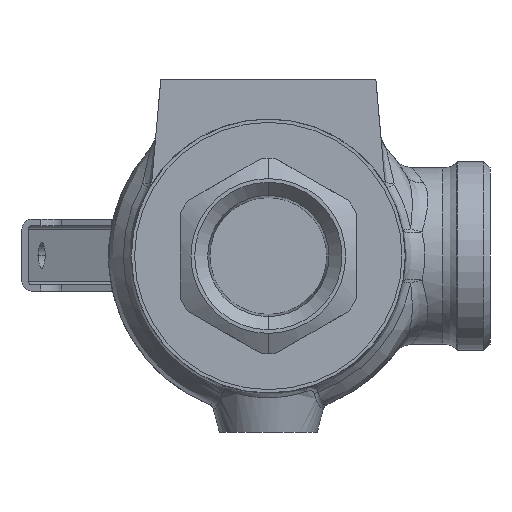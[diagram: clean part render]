
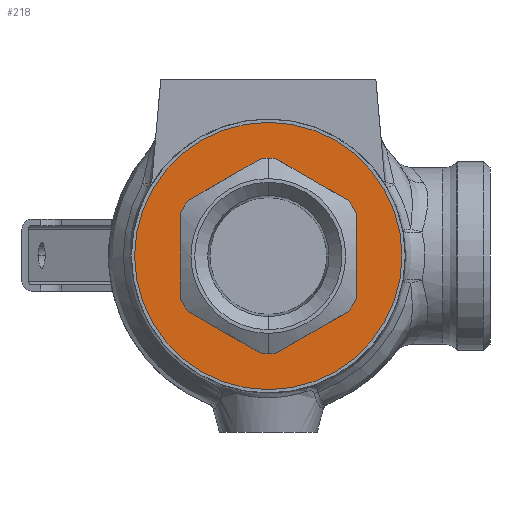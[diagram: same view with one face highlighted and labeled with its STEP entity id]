
A CAD part, front view. The second image highlights one B-rep face of the part: STEP entity #218.
In plain terms, the highlighted planar face has unit normal (0, -1, 0).
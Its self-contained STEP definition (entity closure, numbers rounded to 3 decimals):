
#218=ADVANCED_FACE('',(#1353,#1354),#1352,.T.);
#1352=PLANE('',#3597);
#1353=FACE_OUTER_BOUND('',#3598,.T.);
#1354=FACE_BOUND('',#3599,.T.);
#3594=CARTESIAN_POINT('',(-42.608,-25.,26.65));
#3595=DIRECTION('',(0.,-1.,0.));
#3596=DIRECTION('',(0.,0.,-1.));
#3597=AXIS2_PLACEMENT_3D('',#3594,#3595,#3596);
#3598=EDGE_LOOP('',(#4656,#4657));
#3599=EDGE_LOOP('',(#4658,#4659,#4660,#4661,#4662,#4663,#4664,#4665,#4666,#4667,#4668,#4669));
#4656=ORIENTED_EDGE('',*,*,#5303,.F.);
#4657=ORIENTED_EDGE('',*,*,#5304,.F.);
#4658=ORIENTED_EDGE('',*,*,#5301,.F.);
#4659=ORIENTED_EDGE('',*,*,#5297,.F.);
#4660=ORIENTED_EDGE('',*,*,#5294,.F.);
#4661=ORIENTED_EDGE('',*,*,#5108,.F.);
#4662=ORIENTED_EDGE('',*,*,#5292,.F.);
#4663=ORIENTED_EDGE('',*,*,#5112,.F.);
#4664=ORIENTED_EDGE('',*,*,#5290,.F.);
#4665=ORIENTED_EDGE('',*,*,#5116,.F.);
#4666=ORIENTED_EDGE('',*,*,#5126,.F.);
#4667=ORIENTED_EDGE('',*,*,#5120,.F.);
#4668=ORIENTED_EDGE('',*,*,#5124,.F.);
#4669=ORIENTED_EDGE('',*,*,#5305,.F.);
#5108=EDGE_CURVE('',#6164,#6171,#6172,.T.);
#5112=EDGE_CURVE('',#6192,#6199,#6200,.T.);
#5116=EDGE_CURVE('',#6220,#6227,#6228,.T.);
#5120=EDGE_CURVE('',#6248,#6255,#6256,.T.);
#5124=EDGE_CURVE('',#6275,#6248,#6282,.T.);
#5126=EDGE_CURVE('',#6255,#6220,#6294,.T.);
#5290=EDGE_CURVE('',#6227,#6192,#7393,.T.);
#5292=EDGE_CURVE('',#6199,#6164,#7405,.T.);
#5294=EDGE_CURVE('',#6171,#7418,#7419,.T.);
#5297=EDGE_CURVE('',#7418,#7438,#7439,.T.);
#5301=EDGE_CURVE('',#7438,#7465,#7466,.T.);
#5303=EDGE_CURVE('',#7478,#7479,#7480,.T.);
#5304=EDGE_CURVE('',#7479,#7478,#7486,.T.);
#5305=EDGE_CURVE('',#7465,#6275,#7492,.T.);
#6164=VERTEX_POINT('',#8664);
#6171=VERTEX_POINT('',#8668);
#6172=LINE('',#8669,#8670);
#6192=VERTEX_POINT('',#8687);
#6199=VERTEX_POINT('',#8691);
#6200=LINE('',#8692,#8693);
#6220=VERTEX_POINT('',#8710);
#6227=VERTEX_POINT('',#8714);
#6228=LINE('',#8715,#8716);
#6248=VERTEX_POINT('',#8735);
#6255=VERTEX_POINT('',#8739);
#6256=LINE('',#8740,#8741);
#6275=VERTEX_POINT('',#8751);
#6282=CIRCLE('',#8758,15.);
#6294=CIRCLE('',#8766,15.);
#7393=CIRCLE('',#10024,15.);
#7405=CIRCLE('',#10032,15.);
#7418=VERTEX_POINT('',#10038);
#7419=CIRCLE('',#10042,15.);
#7438=VERTEX_POINT('',#10057);
#7439=LINE('',#10058,#10059);
#7465=VERTEX_POINT('',#10074);
#7466=CIRCLE('',#10078,15.);
#7478=VERTEX_POINT('',#10082);
#7479=VERTEX_POINT('',#10083);
#7480=CIRCLE('',#10087,20.5);
#7486=CIRCLE('',#10091,20.5);
#7492=LINE('',#10092,#10093);
#8664=CARTESIAN_POINT('',(13.5,-25.,-6.538));
#8668=CARTESIAN_POINT('',(13.5,-25.,6.538));
#8669=CARTESIAN_POINT('',(13.5,-25.,-6.538));
#8670=VECTOR('',#8671,13.077);
#8671=DIRECTION('',(0.,0.,1.));
#8687=CARTESIAN_POINT('',(1.088,-25.,-14.961));
#8691=CARTESIAN_POINT('',(12.412,-25.,-8.422));
#8692=CARTESIAN_POINT('',(1.088,-25.,-14.961));
#8693=VECTOR('',#8694,13.077);
#8694=DIRECTION('',(0.866,0.,0.5));
#8710=CARTESIAN_POINT('',(-12.412,-25.,-8.422));
#8714=CARTESIAN_POINT('',(-1.088,-25.,-14.961));
#8715=CARTESIAN_POINT('',(-12.412,-25.,-8.422));
#8716=VECTOR('',#8717,13.077);
#8717=DIRECTION('',(0.866,0.,-0.5));
#8735=CARTESIAN_POINT('',(-13.5,-25.,6.538));
#8739=CARTESIAN_POINT('',(-13.5,-25.,-6.538));
#8740=CARTESIAN_POINT('',(-13.5,-25.,6.538));
#8741=VECTOR('',#8742,13.077);
#8742=DIRECTION('',(0.,0.,-1.));
#8751=CARTESIAN_POINT('',(-12.412,-25.,8.422));
#8755=CARTESIAN_POINT('',(0.,-25.,0.));
#8756=DIRECTION('',(0.,-1.,0.));
#8757=DIRECTION('',(0.,0.,1.));
#8758=AXIS2_PLACEMENT_3D('',#8755,#8756,#8757);
#8763=CARTESIAN_POINT('',(0.,-25.,0.));
#8764=DIRECTION('',(0.,-1.,0.));
#8765=DIRECTION('',(0.,0.,1.));
#8766=AXIS2_PLACEMENT_3D('',#8763,#8764,#8765);
#10021=CARTESIAN_POINT('',(0.,-25.,0.));
#10022=DIRECTION('',(0.,-1.,0.));
#10023=DIRECTION('',(0.,0.,1.));
#10024=AXIS2_PLACEMENT_3D('',#10021,#10022,#10023);
#10029=CARTESIAN_POINT('',(0.,-25.,0.));
#10030=DIRECTION('',(0.,-1.,0.));
#10031=DIRECTION('',(0.,0.,1.));
#10032=AXIS2_PLACEMENT_3D('',#10029,#10030,#10031);
#10038=CARTESIAN_POINT('',(12.412,-25.,8.422));
#10039=CARTESIAN_POINT('',(0.,-25.,0.));
#10040=DIRECTION('',(0.,-1.,0.));
#10041=DIRECTION('',(0.,0.,1.));
#10042=AXIS2_PLACEMENT_3D('',#10039,#10040,#10041);
#10057=CARTESIAN_POINT('',(1.088,-25.,14.961));
#10058=CARTESIAN_POINT('',(12.412,-25.,8.422));
#10059=VECTOR('',#10060,13.077);
#10060=DIRECTION('',(-0.866,0.,0.5));
#10074=CARTESIAN_POINT('',(-1.088,-25.,14.961));
#10075=CARTESIAN_POINT('',(0.,-25.,0.));
#10076=DIRECTION('',(0.,-1.,0.));
#10077=DIRECTION('',(0.073,0.,0.997));
#10078=AXIS2_PLACEMENT_3D('',#10075,#10076,#10077);
#10082=CARTESIAN_POINT('',(0.,-25.,-20.5));
#10083=CARTESIAN_POINT('',(0.,-25.,20.5));
#10084=CARTESIAN_POINT('',(0.,-25.,0.));
#10085=DIRECTION('',(0.,1.,0.));
#10086=DIRECTION('',(0.,0.,1.));
#10087=AXIS2_PLACEMENT_3D('',#10084,#10085,#10086);
#10088=CARTESIAN_POINT('',(0.,-25.,0.));
#10089=DIRECTION('',(0.,1.,0.));
#10090=DIRECTION('',(0.,0.,1.));
#10091=AXIS2_PLACEMENT_3D('',#10088,#10089,#10090);
#10092=CARTESIAN_POINT('',(-1.088,-25.,14.961));
#10093=VECTOR('',#10094,13.077);
#10094=DIRECTION('',(-0.866,0.,-0.5));
